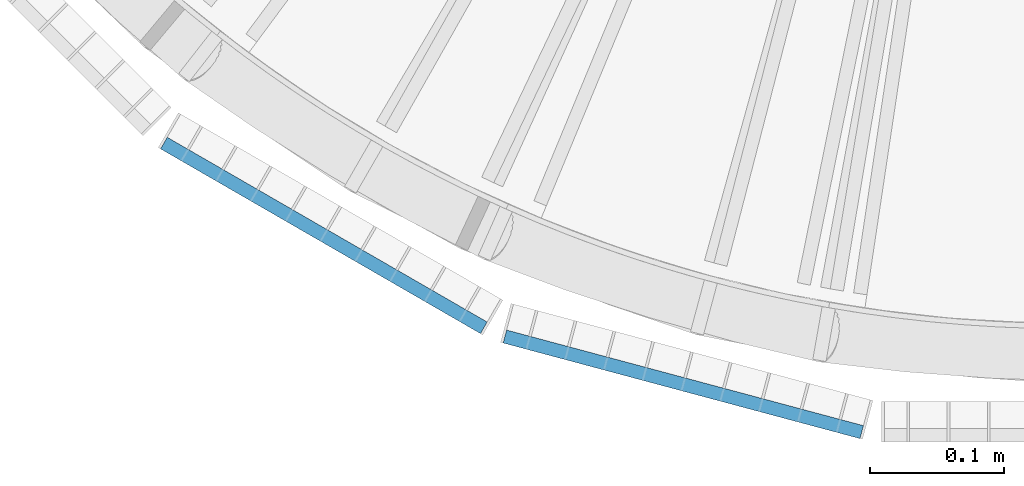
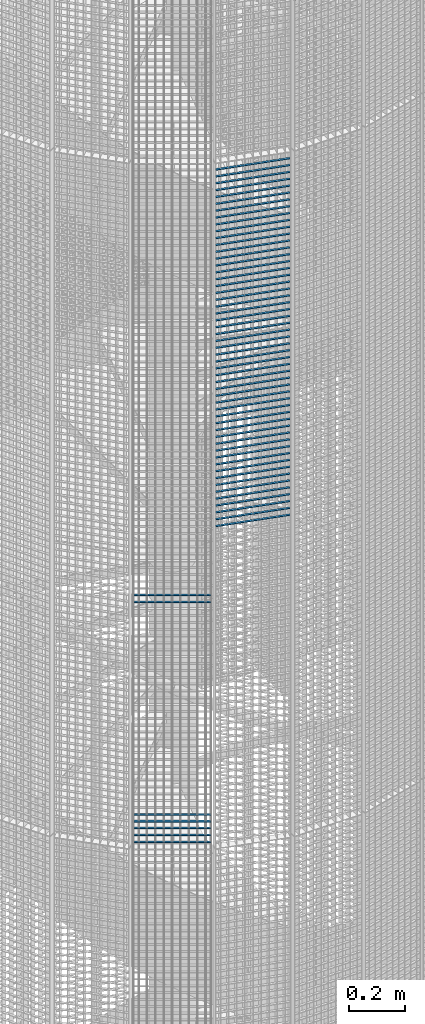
# One storey, part 355 of 1148: 60 beams, 2 elements without a shape of their own.
"""IFC2X3 building model written with IfcOpenShell, lengths in millimetres."""

from ifc_helpers import new_model, si_unit, frame, origin_with_axes, origin_2d_with_axis, place, context, subcontext, project, spatial, rectangle, extrude, material, type_object, element, aggregate, save


model = new_model("IFC2X3")

# Units and contexts
model_context = context("Model", 3, precision=1e-05, world=origin_with_axes())
body_context = subcontext(model_context, "Body", "Model", "MODEL_VIEW")
ifc_project = project(units=[si_unit("LENGTHUNIT", "METRE", prefix="MILLI"), si_unit("AREAUNIT", "SQUARE_METRE"), si_unit("VOLUMEUNIT", "CUBIC_METRE"), si_unit("MASSUNIT", "GRAM", prefix="KILO"), si_unit("TIMEUNIT", "SECOND"), si_unit("PLANEANGLEUNIT", "RADIAN"), si_unit("SOLIDANGLEUNIT", "STERADIAN"), si_unit("THERMODYNAMICTEMPERATUREUNIT", "DEGREE_CELSIUS"), si_unit("LUMINOUSINTENSITYUNIT", "LUMEN")], contexts=[model_context])

# Site, building, storey
site_placement = place(None, origin_with_axes())
site = spatial("IfcSite", under=ifc_project, at=site_placement, Name="Undefined", CompositionType="ELEMENT")
building_placement = place(site_placement, origin_with_axes())
building = spatial("IfcBuilding", under=site, at=building_placement, Name="Undefined", CompositionType="ELEMENT")
storey_placement = place(building_placement, origin_with_axes())
storey = spatial("IfcBuildingStorey", under=building, at=storey_placement, Name="Undefined", CompositionType="ELEMENT", Elevation=0.0)

# Assembly, beams
assembly_1_placement = place(storey_placement, origin_with_axes())
assembly_1 = element("IfcElementAssembly", 1, at=assembly_1_placement, inside=storey, Name="BORDURE", AssemblyPlace="NOTDEFINED", PredefinedType="NOTDEFINED")
ifc_material = material(Name="STEEL/S235JR")
beam_type = type_object("IfcBeamType", Name="PL2*10", PredefinedType="NOTDEFINED")
beam_1_placement = place(assembly_1_placement, frame((21162.7680445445, -1033.29996828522, 6150.0), z_axis=(-0.49999999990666, -0.866025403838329, 0.0), x_axis=(-0.866025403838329, 0.499999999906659, 0.0)))
beam_1 = element("IfcBeam", 2, at=beam_1_placement, type_object=beam_type, material=ifc_material, Name="ENTRETOISE", context=body_context, shape_type="SweptSolid", body=[
    extrude(rectangle(XDim=2.0, YDim=10.0, at=origin_2d_with_axis()), frame((275.999999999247, 9.09494701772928e-13, 1.53210777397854e-14), z_axis=(-1.0, 0.0, 0.0), x_axis=(0.0, -1.0, 0.0)), (0.0, 0.0, 1.0), 276.0),
])
beam_2_placement = place(assembly_1_placement, frame((21162.7680445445, -1033.29996828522, 6120.0), z_axis=(-0.49999999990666, -0.866025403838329, 0.0), x_axis=(-0.866025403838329, 0.499999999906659, 0.0)))
beam_2 = element("IfcBeam", 3, at=beam_2_placement, type_object=beam_type, material=ifc_material, Name="ENTRETOISE", context=body_context, shape_type="SweptSolid", body=[
    extrude(rectangle(XDim=2.0, YDim=10.0, at=origin_2d_with_axis()), frame((275.999999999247, 9.09494701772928e-13, 1.53210777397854e-14), z_axis=(-1.0, 0.0, 0.0), x_axis=(0.0, -1.0, 0.0)), (0.0, 0.0, 1.0), 276.0),
])
beam_3_placement = place(assembly_1_placement, frame((21162.7680445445, -1033.29996828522, 7080.0), z_axis=(-0.49999999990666, -0.866025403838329, 0.0), x_axis=(-0.866025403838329, 0.499999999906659, 0.0)))
beam_3 = element("IfcBeam", 4, at=beam_3_placement, type_object=beam_type, material=ifc_material, Name="ENTRETOISE", context=body_context, shape_type="SweptSolid", body=[
    extrude(rectangle(XDim=2.0, YDim=10.0, at=origin_2d_with_axis()), frame((275.999999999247, 9.09494701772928e-13, 1.53210777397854e-14), z_axis=(-1.0, 0.0, 0.0), x_axis=(0.0, -1.0, 0.0)), (0.0, 0.0, 1.0), 276.0),
])
beam_4_placement = place(assembly_1_placement, frame((21162.7680445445, -1033.29996828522, 6090.0), z_axis=(-0.49999999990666, -0.866025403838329, 0.0), x_axis=(-0.866025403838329, 0.499999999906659, 0.0)))
beam_4 = element("IfcBeam", 5, at=beam_4_placement, type_object=beam_type, material=ifc_material, Name="ENTRETOISE", context=body_context, shape_type="SweptSolid", body=[
    extrude(rectangle(XDim=2.0, YDim=10.0, at=origin_2d_with_axis()), frame((275.999999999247, 9.09494701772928e-13, 1.53210777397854e-14), z_axis=(-1.0, 0.0, 0.0), x_axis=(0.0, -1.0, 0.0)), (0.0, 0.0, 1.0), 276.0),
])
beam_5_placement = place(assembly_1_placement, frame((21162.7680445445, -1033.29996828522, 6060.0), z_axis=(-0.49999999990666, -0.866025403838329, 0.0), x_axis=(-0.866025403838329, 0.499999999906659, 0.0)))
beam_5 = element("IfcBeam", 6, at=beam_5_placement, type_object=beam_type, material=ifc_material, Name="ENTRETOISE", context=body_context, shape_type="SweptSolid", body=[
    extrude(rectangle(XDim=2.0, YDim=10.0, at=origin_2d_with_axis()), frame((275.999999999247, 9.09494701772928e-13, 1.53210777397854e-14), z_axis=(-1.0, 0.0, 0.0), x_axis=(0.0, -1.0, 0.0)), (0.0, 0.0, 1.0), 276.0),
])
beam_6_placement = place(assembly_1_placement, frame((21162.7680445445, -1033.29996828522, 7110.0), z_axis=(-0.49999999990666, -0.866025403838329, 0.0), x_axis=(-0.866025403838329, 0.499999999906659, 0.0)))
beam_6 = element("IfcBeam", 7, at=beam_6_placement, type_object=beam_type, material=ifc_material, Name="ENTRETOISE", context=body_context, shape_type="SweptSolid", body=[
    extrude(rectangle(XDim=2.0, YDim=10.0, at=origin_2d_with_axis()), frame((275.999999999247, 9.09494701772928e-13, 1.53210777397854e-14), z_axis=(-1.0, 0.0, 0.0), x_axis=(0.0, -1.0, 0.0)), (0.0, 0.0, 1.0), 276.0),
])
beam_7_placement = place(assembly_1_placement, frame((21162.7680445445, -1033.29996828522, 6030.0), z_axis=(-0.49999999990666, -0.866025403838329, 0.0), x_axis=(-0.866025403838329, 0.499999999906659, 0.0)))
beam_7 = element("IfcBeam", 8, at=beam_7_placement, type_object=beam_type, material=ifc_material, Name="ENTRETOISE", context=body_context, shape_type="SweptSolid", body=[
    extrude(rectangle(XDim=2.0, YDim=10.0, at=origin_2d_with_axis()), frame((275.999999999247, 9.09494701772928e-13, 1.53210777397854e-14), z_axis=(-1.0, 0.0, 0.0), x_axis=(0.0, -1.0, 0.0)), (0.0, 0.0, 1.0), 276.0),
])
aggregate(assembly_1, [beam_1, beam_2, beam_3, beam_4, beam_5, beam_6, beam_7])

assembly_2_placement = place(storey_placement, origin_with_axes())
assembly_2 = element("IfcElementAssembly", 9, at=assembly_2_placement, inside=storey, Name="BORDURE", AssemblyPlace="NOTDEFINED", PredefinedType="NOTDEFINED")
beam_8_placement = place(assembly_2_placement, frame((21445.1040732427, -1111.25508286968, 8970.0), z_axis=(-0.258819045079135, -0.965925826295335, 0.0), x_axis=(-0.965925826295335, 0.258819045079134, 0.0)))
beam_8 = element("IfcBeam", 10, at=beam_8_placement, type_object=beam_type, material=ifc_material, Name="ENTRETOISE", context=body_context, shape_type="SweptSolid", body=[
    extrude(rectangle(XDim=2.0, YDim=10.0, at=origin_2d_with_axis()), frame((275.999999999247, 9.09494701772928e-13, 1.53210777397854e-14), z_axis=(-1.0, 0.0, 0.0), x_axis=(0.0, -1.0, 0.0)), (0.0, 0.0, 1.0), 276.0),
])
beam_9_placement = place(assembly_2_placement, frame((21445.1040732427, -1111.25508286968, 8940.0), z_axis=(-0.258819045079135, -0.965925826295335, 0.0), x_axis=(-0.965925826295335, 0.258819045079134, 0.0)))
beam_9 = element("IfcBeam", 11, at=beam_9_placement, type_object=beam_type, material=ifc_material, Name="ENTRETOISE", context=body_context, shape_type="SweptSolid", body=[
    extrude(rectangle(XDim=2.0, YDim=10.0, at=origin_2d_with_axis()), frame((275.999999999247, 9.09494701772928e-13, 1.53210777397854e-14), z_axis=(-1.0, 0.0, 0.0), x_axis=(0.0, -1.0, 0.0)), (0.0, 0.0, 1.0), 276.0),
])
beam_10_placement = place(assembly_2_placement, frame((21445.1040732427, -1111.25508286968, 8910.0), z_axis=(-0.258819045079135, -0.965925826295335, 0.0), x_axis=(-0.965925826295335, 0.258819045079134, 0.0)))
beam_10 = element("IfcBeam", 12, at=beam_10_placement, type_object=beam_type, material=ifc_material, Name="ENTRETOISE", context=body_context, shape_type="SweptSolid", body=[
    extrude(rectangle(XDim=2.0, YDim=10.0, at=origin_2d_with_axis()), frame((275.999999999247, 9.09494701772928e-13, 1.53210777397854e-14), z_axis=(-1.0, 0.0, 0.0), x_axis=(0.0, -1.0, 0.0)), (0.0, 0.0, 1.0), 276.0),
])
beam_11_placement = place(assembly_2_placement, frame((21445.1040732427, -1111.25508286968, 8880.0), z_axis=(-0.258819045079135, -0.965925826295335, 0.0), x_axis=(-0.965925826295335, 0.258819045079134, 0.0)))
beam_11 = element("IfcBeam", 13, at=beam_11_placement, type_object=beam_type, material=ifc_material, Name="ENTRETOISE", context=body_context, shape_type="SweptSolid", body=[
    extrude(rectangle(XDim=2.0, YDim=10.0, at=origin_2d_with_axis()), frame((275.999999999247, 9.09494701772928e-13, 1.53210777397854e-14), z_axis=(-1.0, 0.0, 0.0), x_axis=(0.0, -1.0, 0.0)), (0.0, 0.0, 1.0), 276.0),
])
beam_12_placement = place(assembly_2_placement, frame((21445.1040732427, -1111.25508286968, 8850.0), z_axis=(-0.258819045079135, -0.965925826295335, 0.0), x_axis=(-0.965925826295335, 0.258819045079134, 0.0)))
beam_12 = element("IfcBeam", 14, at=beam_12_placement, type_object=beam_type, material=ifc_material, Name="ENTRETOISE", context=body_context, shape_type="SweptSolid", body=[
    extrude(rectangle(XDim=2.0, YDim=10.0, at=origin_2d_with_axis()), frame((275.999999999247, 9.09494701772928e-13, 1.53210777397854e-14), z_axis=(-1.0, 0.0, 0.0), x_axis=(0.0, -1.0, 0.0)), (0.0, 0.0, 1.0), 276.0),
])
beam_13_placement = place(assembly_2_placement, frame((21445.1040732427, -1111.25508286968, 8820.0), z_axis=(-0.258819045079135, -0.965925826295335, 0.0), x_axis=(-0.965925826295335, 0.258819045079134, 0.0)))
beam_13 = element("IfcBeam", 15, at=beam_13_placement, type_object=beam_type, material=ifc_material, Name="ENTRETOISE", context=body_context, shape_type="SweptSolid", body=[
    extrude(rectangle(XDim=2.0, YDim=10.0, at=origin_2d_with_axis()), frame((275.999999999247, 9.09494701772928e-13, 1.53210777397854e-14), z_axis=(-1.0, 0.0, 0.0), x_axis=(0.0, -1.0, 0.0)), (0.0, 0.0, 1.0), 276.0),
])
beam_14_placement = place(assembly_2_placement, frame((21445.1040732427, -1111.25508286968, 8790.0), z_axis=(-0.258819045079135, -0.965925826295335, 0.0), x_axis=(-0.965925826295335, 0.258819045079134, 0.0)))
beam_14 = element("IfcBeam", 16, at=beam_14_placement, type_object=beam_type, material=ifc_material, Name="ENTRETOISE", context=body_context, shape_type="SweptSolid", body=[
    extrude(rectangle(XDim=2.0, YDim=10.0, at=origin_2d_with_axis()), frame((275.999999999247, 9.09494701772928e-13, 1.53210777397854e-14), z_axis=(-1.0, 0.0, 0.0), x_axis=(0.0, -1.0, 0.0)), (0.0, 0.0, 1.0), 276.0),
])
beam_15_placement = place(assembly_2_placement, frame((21445.1040732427, -1111.25508286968, 8760.0), z_axis=(-0.258819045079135, -0.965925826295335, 0.0), x_axis=(-0.965925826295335, 0.258819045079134, 0.0)))
beam_15 = element("IfcBeam", 17, at=beam_15_placement, type_object=beam_type, material=ifc_material, Name="ENTRETOISE", context=body_context, shape_type="SweptSolid", body=[
    extrude(rectangle(XDim=2.0, YDim=10.0, at=origin_2d_with_axis()), frame((275.999999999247, 9.09494701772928e-13, 1.53210777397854e-14), z_axis=(-1.0, 0.0, 0.0), x_axis=(0.0, -1.0, 0.0)), (0.0, 0.0, 1.0), 276.0),
])
beam_16_placement = place(assembly_2_placement, frame((21445.1040732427, -1111.25508286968, 8730.0), z_axis=(-0.258819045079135, -0.965925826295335, 0.0), x_axis=(-0.965925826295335, 0.258819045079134, 0.0)))
beam_16 = element("IfcBeam", 18, at=beam_16_placement, type_object=beam_type, material=ifc_material, Name="ENTRETOISE", context=body_context, shape_type="SweptSolid", body=[
    extrude(rectangle(XDim=2.0, YDim=10.0, at=origin_2d_with_axis()), frame((275.999999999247, 9.09494701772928e-13, 1.53210777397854e-14), z_axis=(-1.0, 0.0, 0.0), x_axis=(0.0, -1.0, 0.0)), (0.0, 0.0, 1.0), 276.0),
])
beam_17_placement = place(assembly_2_placement, frame((21445.1040732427, -1111.25508286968, 8700.0), z_axis=(-0.258819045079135, -0.965925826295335, 0.0), x_axis=(-0.965925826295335, 0.258819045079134, 0.0)))
beam_17 = element("IfcBeam", 19, at=beam_17_placement, type_object=beam_type, material=ifc_material, Name="ENTRETOISE", context=body_context, shape_type="SweptSolid", body=[
    extrude(rectangle(XDim=2.0, YDim=10.0, at=origin_2d_with_axis()), frame((275.999999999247, 9.09494701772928e-13, 1.53210777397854e-14), z_axis=(-1.0, 0.0, 0.0), x_axis=(0.0, -1.0, 0.0)), (0.0, 0.0, 1.0), 276.0),
])
beam_18_placement = place(assembly_2_placement, frame((21445.1040732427, -1111.25508286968, 8670.0), z_axis=(-0.258819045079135, -0.965925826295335, 0.0), x_axis=(-0.965925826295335, 0.258819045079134, 0.0)))
beam_18 = element("IfcBeam", 20, at=beam_18_placement, type_object=beam_type, material=ifc_material, Name="ENTRETOISE", context=body_context, shape_type="SweptSolid", body=[
    extrude(rectangle(XDim=2.0, YDim=10.0, at=origin_2d_with_axis()), frame((275.999999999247, 9.09494701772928e-13, 1.53210777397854e-14), z_axis=(-1.0, 0.0, 0.0), x_axis=(0.0, -1.0, 0.0)), (0.0, 0.0, 1.0), 276.0),
])
beam_19_placement = place(assembly_2_placement, frame((21445.1040732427, -1111.25508286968, 8640.0), z_axis=(-0.258819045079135, -0.965925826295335, 0.0), x_axis=(-0.965925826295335, 0.258819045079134, 0.0)))
beam_19 = element("IfcBeam", 21, at=beam_19_placement, type_object=beam_type, material=ifc_material, Name="ENTRETOISE", context=body_context, shape_type="SweptSolid", body=[
    extrude(rectangle(XDim=2.0, YDim=10.0, at=origin_2d_with_axis()), frame((275.999999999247, 9.09494701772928e-13, 1.53210777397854e-14), z_axis=(-1.0, 0.0, 0.0), x_axis=(0.0, -1.0, 0.0)), (0.0, 0.0, 1.0), 276.0),
])
beam_20_placement = place(assembly_2_placement, frame((21445.1040732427, -1111.25508286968, 8610.0), z_axis=(-0.258819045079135, -0.965925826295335, 0.0), x_axis=(-0.965925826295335, 0.258819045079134, 0.0)))
beam_20 = element("IfcBeam", 22, at=beam_20_placement, type_object=beam_type, material=ifc_material, Name="ENTRETOISE", context=body_context, shape_type="SweptSolid", body=[
    extrude(rectangle(XDim=2.0, YDim=10.0, at=origin_2d_with_axis()), frame((275.999999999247, 9.09494701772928e-13, 1.53210777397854e-14), z_axis=(-1.0, 0.0, 0.0), x_axis=(0.0, -1.0, 0.0)), (0.0, 0.0, 1.0), 276.0),
])
beam_21_placement = place(assembly_2_placement, frame((21445.1040732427, -1111.25508286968, 8580.0), z_axis=(-0.258819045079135, -0.965925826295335, 0.0), x_axis=(-0.965925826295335, 0.258819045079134, 0.0)))
beam_21 = element("IfcBeam", 23, at=beam_21_placement, type_object=beam_type, material=ifc_material, Name="ENTRETOISE", context=body_context, shape_type="SweptSolid", body=[
    extrude(rectangle(XDim=2.0, YDim=10.0, at=origin_2d_with_axis()), frame((275.999999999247, 9.09494701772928e-13, 1.53210777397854e-14), z_axis=(-1.0, 0.0, 0.0), x_axis=(0.0, -1.0, 0.0)), (0.0, 0.0, 1.0), 276.0),
])
beam_22_placement = place(assembly_2_placement, frame((21445.1040732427, -1111.25508286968, 8550.0), z_axis=(-0.258819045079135, -0.965925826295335, 0.0), x_axis=(-0.965925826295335, 0.258819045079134, 0.0)))
beam_22 = element("IfcBeam", 24, at=beam_22_placement, type_object=beam_type, material=ifc_material, Name="ENTRETOISE", context=body_context, shape_type="SweptSolid", body=[
    extrude(rectangle(XDim=2.0, YDim=10.0, at=origin_2d_with_axis()), frame((275.999999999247, 9.09494701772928e-13, 1.53210777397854e-14), z_axis=(-1.0, 0.0, 0.0), x_axis=(0.0, -1.0, 0.0)), (0.0, 0.0, 1.0), 276.0),
])
beam_23_placement = place(assembly_2_placement, frame((21445.1040732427, -1111.25508286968, 8520.0), z_axis=(-0.258819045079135, -0.965925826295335, 0.0), x_axis=(-0.965925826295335, 0.258819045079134, 0.0)))
beam_23 = element("IfcBeam", 25, at=beam_23_placement, type_object=beam_type, material=ifc_material, Name="ENTRETOISE", context=body_context, shape_type="SweptSolid", body=[
    extrude(rectangle(XDim=2.0, YDim=10.0, at=origin_2d_with_axis()), frame((275.999999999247, 9.09494701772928e-13, 1.53210777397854e-14), z_axis=(-1.0, 0.0, 0.0), x_axis=(0.0, -1.0, 0.0)), (0.0, 0.0, 1.0), 276.0),
])
beam_24_placement = place(assembly_2_placement, frame((21445.1040732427, -1111.25508286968, 8490.0), z_axis=(-0.258819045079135, -0.965925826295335, 0.0), x_axis=(-0.965925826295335, 0.258819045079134, 0.0)))
beam_24 = element("IfcBeam", 26, at=beam_24_placement, type_object=beam_type, material=ifc_material, Name="ENTRETOISE", context=body_context, shape_type="SweptSolid", body=[
    extrude(rectangle(XDim=2.0, YDim=10.0, at=origin_2d_with_axis()), frame((275.999999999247, 9.09494701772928e-13, 1.53210777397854e-14), z_axis=(-1.0, 0.0, 0.0), x_axis=(0.0, -1.0, 0.0)), (0.0, 0.0, 1.0), 276.0),
])
beam_25_placement = place(assembly_2_placement, frame((21445.1040732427, -1111.25508286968, 8460.0), z_axis=(-0.258819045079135, -0.965925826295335, 0.0), x_axis=(-0.965925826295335, 0.258819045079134, 0.0)))
beam_25 = element("IfcBeam", 27, at=beam_25_placement, type_object=beam_type, material=ifc_material, Name="ENTRETOISE", context=body_context, shape_type="SweptSolid", body=[
    extrude(rectangle(XDim=2.0, YDim=10.0, at=origin_2d_with_axis()), frame((275.999999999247, 9.09494701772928e-13, 1.53210777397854e-14), z_axis=(-1.0, 0.0, 0.0), x_axis=(0.0, -1.0, 0.0)), (0.0, 0.0, 1.0), 276.0),
])
beam_26_placement = place(assembly_2_placement, frame((21445.1040732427, -1111.25508286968, 8430.0), z_axis=(-0.258819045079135, -0.965925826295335, 0.0), x_axis=(-0.965925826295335, 0.258819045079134, 0.0)))
beam_26 = element("IfcBeam", 28, at=beam_26_placement, type_object=beam_type, material=ifc_material, Name="ENTRETOISE", context=body_context, shape_type="SweptSolid", body=[
    extrude(rectangle(XDim=2.0, YDim=10.0, at=origin_2d_with_axis()), frame((275.999999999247, 9.09494701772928e-13, 1.53210777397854e-14), z_axis=(-1.0, 0.0, 0.0), x_axis=(0.0, -1.0, 0.0)), (0.0, 0.0, 1.0), 276.0),
])
beam_27_placement = place(assembly_2_placement, frame((21445.1040732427, -1111.25508286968, 8400.0), z_axis=(-0.258819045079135, -0.965925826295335, 0.0), x_axis=(-0.965925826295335, 0.258819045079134, 0.0)))
beam_27 = element("IfcBeam", 29, at=beam_27_placement, type_object=beam_type, material=ifc_material, Name="ENTRETOISE", context=body_context, shape_type="SweptSolid", body=[
    extrude(rectangle(XDim=2.0, YDim=10.0, at=origin_2d_with_axis()), frame((275.999999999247, 9.09494701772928e-13, 1.53210777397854e-14), z_axis=(-1.0, 0.0, 0.0), x_axis=(0.0, -1.0, 0.0)), (0.0, 0.0, 1.0), 276.0),
])
beam_28_placement = place(assembly_2_placement, frame((21445.1040732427, -1111.25508286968, 8370.0), z_axis=(-0.258819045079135, -0.965925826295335, 0.0), x_axis=(-0.965925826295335, 0.258819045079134, 0.0)))
beam_28 = element("IfcBeam", 30, at=beam_28_placement, type_object=beam_type, material=ifc_material, Name="ENTRETOISE", context=body_context, shape_type="SweptSolid", body=[
    extrude(rectangle(XDim=2.0, YDim=10.0, at=origin_2d_with_axis()), frame((275.999999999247, 9.09494701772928e-13, 1.53210777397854e-14), z_axis=(-1.0, 0.0, 0.0), x_axis=(0.0, -1.0, 0.0)), (0.0, 0.0, 1.0), 276.0),
])
beam_29_placement = place(assembly_2_placement, frame((21445.1040732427, -1111.25508286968, 8340.0), z_axis=(-0.258819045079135, -0.965925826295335, 0.0), x_axis=(-0.965925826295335, 0.258819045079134, 0.0)))
beam_29 = element("IfcBeam", 31, at=beam_29_placement, type_object=beam_type, material=ifc_material, Name="ENTRETOISE", context=body_context, shape_type="SweptSolid", body=[
    extrude(rectangle(XDim=2.0, YDim=10.0, at=origin_2d_with_axis()), frame((275.999999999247, 9.09494701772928e-13, 1.53210777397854e-14), z_axis=(-1.0, 0.0, 0.0), x_axis=(0.0, -1.0, 0.0)), (0.0, 0.0, 1.0), 276.0),
])
beam_30_placement = place(assembly_2_placement, frame((21445.1040732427, -1111.25508286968, 8310.0), z_axis=(-0.258819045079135, -0.965925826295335, 0.0), x_axis=(-0.965925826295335, 0.258819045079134, 0.0)))
beam_30 = element("IfcBeam", 32, at=beam_30_placement, type_object=beam_type, material=ifc_material, Name="ENTRETOISE", context=body_context, shape_type="SweptSolid", body=[
    extrude(rectangle(XDim=2.0, YDim=10.0, at=origin_2d_with_axis()), frame((275.999999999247, 9.09494701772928e-13, 1.53210777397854e-14), z_axis=(-1.0, 0.0, 0.0), x_axis=(0.0, -1.0, 0.0)), (0.0, 0.0, 1.0), 276.0),
])
beam_31_placement = place(assembly_2_placement, frame((21445.1040732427, -1111.25508286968, 8280.0), z_axis=(-0.258819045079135, -0.965925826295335, 0.0), x_axis=(-0.965925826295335, 0.258819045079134, 0.0)))
beam_31 = element("IfcBeam", 33, at=beam_31_placement, type_object=beam_type, material=ifc_material, Name="ENTRETOISE", context=body_context, shape_type="SweptSolid", body=[
    extrude(rectangle(XDim=2.0, YDim=10.0, at=origin_2d_with_axis()), frame((275.999999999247, 9.09494701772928e-13, 1.53210777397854e-14), z_axis=(-1.0, 0.0, 0.0), x_axis=(0.0, -1.0, 0.0)), (0.0, 0.0, 1.0), 276.0),
])
beam_32_placement = place(assembly_2_placement, frame((21445.1040732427, -1111.25508286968, 8250.0), z_axis=(-0.258819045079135, -0.965925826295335, 0.0), x_axis=(-0.965925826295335, 0.258819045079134, 0.0)))
beam_32 = element("IfcBeam", 34, at=beam_32_placement, type_object=beam_type, material=ifc_material, Name="ENTRETOISE", context=body_context, shape_type="SweptSolid", body=[
    extrude(rectangle(XDim=2.0, YDim=10.0, at=origin_2d_with_axis()), frame((275.999999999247, 9.09494701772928e-13, 1.53210777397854e-14), z_axis=(-1.0, 0.0, 0.0), x_axis=(0.0, -1.0, 0.0)), (0.0, 0.0, 1.0), 276.0),
])
beam_33_placement = place(assembly_2_placement, frame((21445.1040732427, -1111.25508286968, 8220.0), z_axis=(-0.258819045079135, -0.965925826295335, 0.0), x_axis=(-0.965925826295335, 0.258819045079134, 0.0)))
beam_33 = element("IfcBeam", 35, at=beam_33_placement, type_object=beam_type, material=ifc_material, Name="ENTRETOISE", context=body_context, shape_type="SweptSolid", body=[
    extrude(rectangle(XDim=2.0, YDim=10.0, at=origin_2d_with_axis()), frame((275.999999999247, 9.09494701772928e-13, 1.53210777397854e-14), z_axis=(-1.0, 0.0, 0.0), x_axis=(0.0, -1.0, 0.0)), (0.0, 0.0, 1.0), 276.0),
])
beam_34_placement = place(assembly_2_placement, frame((21445.1040732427, -1111.25508286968, 8190.0), z_axis=(-0.258819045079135, -0.965925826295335, 0.0), x_axis=(-0.965925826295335, 0.258819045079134, 0.0)))
beam_34 = element("IfcBeam", 36, at=beam_34_placement, type_object=beam_type, material=ifc_material, Name="ENTRETOISE", context=body_context, shape_type="SweptSolid", body=[
    extrude(rectangle(XDim=2.0, YDim=10.0, at=origin_2d_with_axis()), frame((275.999999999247, 9.09494701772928e-13, 1.53210777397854e-14), z_axis=(-1.0, 0.0, 0.0), x_axis=(0.0, -1.0, 0.0)), (0.0, 0.0, 1.0), 276.0),
])
beam_35_placement = place(assembly_2_placement, frame((21445.1040732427, -1111.25508286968, 8160.0), z_axis=(-0.258819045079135, -0.965925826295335, 0.0), x_axis=(-0.965925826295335, 0.258819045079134, 0.0)))
beam_35 = element("IfcBeam", 37, at=beam_35_placement, type_object=beam_type, material=ifc_material, Name="ENTRETOISE", context=body_context, shape_type="SweptSolid", body=[
    extrude(rectangle(XDim=2.0, YDim=10.0, at=origin_2d_with_axis()), frame((275.999999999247, 9.09494701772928e-13, 1.53210777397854e-14), z_axis=(-1.0, 0.0, 0.0), x_axis=(0.0, -1.0, 0.0)), (0.0, 0.0, 1.0), 276.0),
])
beam_36_placement = place(assembly_2_placement, frame((21445.1040732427, -1111.25508286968, 8130.0), z_axis=(-0.258819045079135, -0.965925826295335, 0.0), x_axis=(-0.965925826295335, 0.258819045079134, 0.0)))
beam_36 = element("IfcBeam", 38, at=beam_36_placement, type_object=beam_type, material=ifc_material, Name="ENTRETOISE", context=body_context, shape_type="SweptSolid", body=[
    extrude(rectangle(XDim=2.0, YDim=10.0, at=origin_2d_with_axis()), frame((275.999999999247, 9.09494701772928e-13, 1.53210777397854e-14), z_axis=(-1.0, 0.0, 0.0), x_axis=(0.0, -1.0, 0.0)), (0.0, 0.0, 1.0), 276.0),
])
beam_37_placement = place(assembly_2_placement, frame((21445.1040732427, -1111.25508286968, 8100.0), z_axis=(-0.258819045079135, -0.965925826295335, 0.0), x_axis=(-0.965925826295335, 0.258819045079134, 0.0)))
beam_37 = element("IfcBeam", 39, at=beam_37_placement, type_object=beam_type, material=ifc_material, Name="ENTRETOISE", context=body_context, shape_type="SweptSolid", body=[
    extrude(rectangle(XDim=2.0, YDim=10.0, at=origin_2d_with_axis()), frame((275.999999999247, 9.09494701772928e-13, 1.53210777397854e-14), z_axis=(-1.0, 0.0, 0.0), x_axis=(0.0, -1.0, 0.0)), (0.0, 0.0, 1.0), 276.0),
])
beam_38_placement = place(assembly_2_placement, frame((21445.1040732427, -1111.25508286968, 8070.0), z_axis=(-0.258819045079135, -0.965925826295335, 0.0), x_axis=(-0.965925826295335, 0.258819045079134, 0.0)))
beam_38 = element("IfcBeam", 40, at=beam_38_placement, type_object=beam_type, material=ifc_material, Name="ENTRETOISE", context=body_context, shape_type="SweptSolid", body=[
    extrude(rectangle(XDim=2.0, YDim=10.0, at=origin_2d_with_axis()), frame((275.999999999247, 9.09494701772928e-13, 1.53210777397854e-14), z_axis=(-1.0, 0.0, 0.0), x_axis=(0.0, -1.0, 0.0)), (0.0, 0.0, 1.0), 276.0),
])
beam_39_placement = place(assembly_2_placement, frame((21445.1040732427, -1111.25508286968, 8040.0), z_axis=(-0.258819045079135, -0.965925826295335, 0.0), x_axis=(-0.965925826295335, 0.258819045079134, 0.0)))
beam_39 = element("IfcBeam", 41, at=beam_39_placement, type_object=beam_type, material=ifc_material, Name="ENTRETOISE", context=body_context, shape_type="SweptSolid", body=[
    extrude(rectangle(XDim=2.0, YDim=10.0, at=origin_2d_with_axis()), frame((275.999999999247, 9.09494701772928e-13, 1.53210777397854e-14), z_axis=(-1.0, 0.0, 0.0), x_axis=(0.0, -1.0, 0.0)), (0.0, 0.0, 1.0), 276.0),
])
beam_40_placement = place(assembly_2_placement, frame((21445.1040732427, -1111.25508286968, 8010.0), z_axis=(-0.258819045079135, -0.965925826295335, 0.0), x_axis=(-0.965925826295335, 0.258819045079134, 0.0)))
beam_40 = element("IfcBeam", 42, at=beam_40_placement, type_object=beam_type, material=ifc_material, Name="ENTRETOISE", context=body_context, shape_type="SweptSolid", body=[
    extrude(rectangle(XDim=2.0, YDim=10.0, at=origin_2d_with_axis()), frame((275.999999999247, 9.09494701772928e-13, 1.53210777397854e-14), z_axis=(-1.0, 0.0, 0.0), x_axis=(0.0, -1.0, 0.0)), (0.0, 0.0, 1.0), 276.0),
])
beam_41_placement = place(assembly_2_placement, frame((21445.1040732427, -1111.25508286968, 7980.0), z_axis=(-0.258819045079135, -0.965925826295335, 0.0), x_axis=(-0.965925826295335, 0.258819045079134, 0.0)))
beam_41 = element("IfcBeam", 43, at=beam_41_placement, type_object=beam_type, material=ifc_material, Name="ENTRETOISE", context=body_context, shape_type="SweptSolid", body=[
    extrude(rectangle(XDim=2.0, YDim=10.0, at=origin_2d_with_axis()), frame((275.999999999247, 9.09494701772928e-13, 1.53210777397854e-14), z_axis=(-1.0, 0.0, 0.0), x_axis=(0.0, -1.0, 0.0)), (0.0, 0.0, 1.0), 276.0),
])
beam_42_placement = place(assembly_2_placement, frame((21445.1040732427, -1111.25508286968, 7950.0), z_axis=(-0.258819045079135, -0.965925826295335, 0.0), x_axis=(-0.965925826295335, 0.258819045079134, 0.0)))
beam_42 = element("IfcBeam", 44, at=beam_42_placement, type_object=beam_type, material=ifc_material, Name="ENTRETOISE", context=body_context, shape_type="SweptSolid", body=[
    extrude(rectangle(XDim=2.0, YDim=10.0, at=origin_2d_with_axis()), frame((275.999999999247, 9.09494701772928e-13, 1.53210777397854e-14), z_axis=(-1.0, 0.0, 0.0), x_axis=(0.0, -1.0, 0.0)), (0.0, 0.0, 1.0), 276.0),
])
beam_43_placement = place(assembly_2_placement, frame((21445.1040732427, -1111.25508286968, 7920.0), z_axis=(-0.258819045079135, -0.965925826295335, 0.0), x_axis=(-0.965925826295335, 0.258819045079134, 0.0)))
beam_43 = element("IfcBeam", 45, at=beam_43_placement, type_object=beam_type, material=ifc_material, Name="ENTRETOISE", context=body_context, shape_type="SweptSolid", body=[
    extrude(rectangle(XDim=2.0, YDim=10.0, at=origin_2d_with_axis()), frame((275.999999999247, 9.09494701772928e-13, 1.53210777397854e-14), z_axis=(-1.0, 0.0, 0.0), x_axis=(0.0, -1.0, 0.0)), (0.0, 0.0, 1.0), 276.0),
])
beam_44_placement = place(assembly_2_placement, frame((21445.1040732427, -1111.25508286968, 7890.0), z_axis=(-0.258819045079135, -0.965925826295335, 0.0), x_axis=(-0.965925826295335, 0.258819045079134, 0.0)))
beam_44 = element("IfcBeam", 46, at=beam_44_placement, type_object=beam_type, material=ifc_material, Name="ENTRETOISE", context=body_context, shape_type="SweptSolid", body=[
    extrude(rectangle(XDim=2.0, YDim=10.0, at=origin_2d_with_axis()), frame((275.999999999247, 9.09494701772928e-13, 1.53210777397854e-14), z_axis=(-1.0, 0.0, 0.0), x_axis=(0.0, -1.0, 0.0)), (0.0, 0.0, 1.0), 276.0),
])
beam_45_placement = place(assembly_2_placement, frame((21445.1040732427, -1111.25508286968, 7860.0), z_axis=(-0.258819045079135, -0.965925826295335, 0.0), x_axis=(-0.965925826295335, 0.258819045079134, 0.0)))
beam_45 = element("IfcBeam", 47, at=beam_45_placement, type_object=beam_type, material=ifc_material, Name="ENTRETOISE", context=body_context, shape_type="SweptSolid", body=[
    extrude(rectangle(XDim=2.0, YDim=10.0, at=origin_2d_with_axis()), frame((275.999999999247, 9.09494701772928e-13, 1.53210777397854e-14), z_axis=(-1.0, 0.0, 0.0), x_axis=(0.0, -1.0, 0.0)), (0.0, 0.0, 1.0), 276.0),
])
beam_46_placement = place(assembly_2_placement, frame((21445.1040732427, -1111.25508286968, 7830.0), z_axis=(-0.258819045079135, -0.965925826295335, 0.0), x_axis=(-0.965925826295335, 0.258819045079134, 0.0)))
beam_46 = element("IfcBeam", 48, at=beam_46_placement, type_object=beam_type, material=ifc_material, Name="ENTRETOISE", context=body_context, shape_type="SweptSolid", body=[
    extrude(rectangle(XDim=2.0, YDim=10.0, at=origin_2d_with_axis()), frame((275.999999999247, 9.09494701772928e-13, 1.53210777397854e-14), z_axis=(-1.0, 0.0, 0.0), x_axis=(0.0, -1.0, 0.0)), (0.0, 0.0, 1.0), 276.0),
])
beam_47_placement = place(assembly_2_placement, frame((21445.1040732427, -1111.25508286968, 7800.0), z_axis=(-0.258819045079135, -0.965925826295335, 0.0), x_axis=(-0.965925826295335, 0.258819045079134, 0.0)))
beam_47 = element("IfcBeam", 49, at=beam_47_placement, type_object=beam_type, material=ifc_material, Name="ENTRETOISE", context=body_context, shape_type="SweptSolid", body=[
    extrude(rectangle(XDim=2.0, YDim=10.0, at=origin_2d_with_axis()), frame((275.999999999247, 9.09494701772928e-13, 1.53210777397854e-14), z_axis=(-1.0, 0.0, 0.0), x_axis=(0.0, -1.0, 0.0)), (0.0, 0.0, 1.0), 276.0),
])
beam_48_placement = place(assembly_2_placement, frame((21445.1040732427, -1111.25508286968, 7770.0), z_axis=(-0.258819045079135, -0.965925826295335, 0.0), x_axis=(-0.965925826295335, 0.258819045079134, 0.0)))
beam_48 = element("IfcBeam", 50, at=beam_48_placement, type_object=beam_type, material=ifc_material, Name="ENTRETOISE", context=body_context, shape_type="SweptSolid", body=[
    extrude(rectangle(XDim=2.0, YDim=10.0, at=origin_2d_with_axis()), frame((275.999999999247, 9.09494701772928e-13, 1.53210777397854e-14), z_axis=(-1.0, 0.0, 0.0), x_axis=(0.0, -1.0, 0.0)), (0.0, 0.0, 1.0), 276.0),
])
beam_49_placement = place(assembly_2_placement, frame((21445.1040732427, -1111.25508286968, 7740.0), z_axis=(-0.258819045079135, -0.965925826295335, 0.0), x_axis=(-0.965925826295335, 0.258819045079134, 0.0)))
beam_49 = element("IfcBeam", 51, at=beam_49_placement, type_object=beam_type, material=ifc_material, Name="ENTRETOISE", context=body_context, shape_type="SweptSolid", body=[
    extrude(rectangle(XDim=2.0, YDim=10.0, at=origin_2d_with_axis()), frame((275.999999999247, 9.09494701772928e-13, 1.53210777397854e-14), z_axis=(-1.0, 0.0, 0.0), x_axis=(0.0, -1.0, 0.0)), (0.0, 0.0, 1.0), 276.0),
])
beam_50_placement = place(assembly_2_placement, frame((21445.1040732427, -1111.25508286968, 7710.0), z_axis=(-0.258819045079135, -0.965925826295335, 0.0), x_axis=(-0.965925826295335, 0.258819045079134, 0.0)))
beam_50 = element("IfcBeam", 52, at=beam_50_placement, type_object=beam_type, material=ifc_material, Name="ENTRETOISE", context=body_context, shape_type="SweptSolid", body=[
    extrude(rectangle(XDim=2.0, YDim=10.0, at=origin_2d_with_axis()), frame((275.999999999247, 9.09494701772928e-13, 1.53210777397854e-14), z_axis=(-1.0, 0.0, 0.0), x_axis=(0.0, -1.0, 0.0)), (0.0, 0.0, 1.0), 276.0),
])
beam_51_placement = place(assembly_2_placement, frame((21445.1040732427, -1111.25508286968, 7680.0), z_axis=(-0.258819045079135, -0.965925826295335, 0.0), x_axis=(-0.965925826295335, 0.258819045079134, 0.0)))
beam_51 = element("IfcBeam", 53, at=beam_51_placement, type_object=beam_type, material=ifc_material, Name="ENTRETOISE", context=body_context, shape_type="SweptSolid", body=[
    extrude(rectangle(XDim=2.0, YDim=10.0, at=origin_2d_with_axis()), frame((275.999999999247, 9.09494701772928e-13, 1.53210777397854e-14), z_axis=(-1.0, 0.0, 0.0), x_axis=(0.0, -1.0, 0.0)), (0.0, 0.0, 1.0), 276.0),
])
beam_52_placement = place(assembly_2_placement, frame((21445.1040732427, -1111.25508286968, 7650.0), z_axis=(-0.258819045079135, -0.965925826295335, 0.0), x_axis=(-0.965925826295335, 0.258819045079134, 0.0)))
beam_52 = element("IfcBeam", 54, at=beam_52_placement, type_object=beam_type, material=ifc_material, Name="ENTRETOISE", context=body_context, shape_type="SweptSolid", body=[
    extrude(rectangle(XDim=2.0, YDim=10.0, at=origin_2d_with_axis()), frame((275.999999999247, 9.09494701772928e-13, 1.53210777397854e-14), z_axis=(-1.0, 0.0, 0.0), x_axis=(0.0, -1.0, 0.0)), (0.0, 0.0, 1.0), 276.0),
])
beam_53_placement = place(assembly_2_placement, frame((21445.1040732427, -1111.25508286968, 7620.0), z_axis=(-0.258819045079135, -0.965925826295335, 0.0), x_axis=(-0.965925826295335, 0.258819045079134, 0.0)))
beam_53 = element("IfcBeam", 55, at=beam_53_placement, type_object=beam_type, material=ifc_material, Name="ENTRETOISE", context=body_context, shape_type="SweptSolid", body=[
    extrude(rectangle(XDim=2.0, YDim=10.0, at=origin_2d_with_axis()), frame((275.999999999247, 9.09494701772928e-13, 1.53210777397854e-14), z_axis=(-1.0, 0.0, 0.0), x_axis=(0.0, -1.0, 0.0)), (0.0, 0.0, 1.0), 276.0),
])
beam_54_placement = place(assembly_2_placement, frame((21445.1040732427, -1111.25508286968, 7590.0), z_axis=(-0.258819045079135, -0.965925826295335, 0.0), x_axis=(-0.965925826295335, 0.258819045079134, 0.0)))
beam_54 = element("IfcBeam", 56, at=beam_54_placement, type_object=beam_type, material=ifc_material, Name="ENTRETOISE", context=body_context, shape_type="SweptSolid", body=[
    extrude(rectangle(XDim=2.0, YDim=10.0, at=origin_2d_with_axis()), frame((275.999999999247, 9.09494701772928e-13, 1.53210777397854e-14), z_axis=(-1.0, 0.0, 0.0), x_axis=(0.0, -1.0, 0.0)), (0.0, 0.0, 1.0), 276.0),
])
beam_55_placement = place(assembly_2_placement, frame((21445.1040732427, -1111.25508286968, 7560.0), z_axis=(-0.258819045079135, -0.965925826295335, 0.0), x_axis=(-0.965925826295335, 0.258819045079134, 0.0)))
beam_55 = element("IfcBeam", 57, at=beam_55_placement, type_object=beam_type, material=ifc_material, Name="ENTRETOISE", context=body_context, shape_type="SweptSolid", body=[
    extrude(rectangle(XDim=2.0, YDim=10.0, at=origin_2d_with_axis()), frame((275.999999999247, 9.09494701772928e-13, 1.53210777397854e-14), z_axis=(-1.0, 0.0, 0.0), x_axis=(0.0, -1.0, 0.0)), (0.0, 0.0, 1.0), 276.0),
])
beam_56_placement = place(assembly_2_placement, frame((21445.1040732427, -1111.25508286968, 7530.0), z_axis=(-0.258819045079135, -0.965925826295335, 0.0), x_axis=(-0.965925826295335, 0.258819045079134, 0.0)))
beam_56 = element("IfcBeam", 58, at=beam_56_placement, type_object=beam_type, material=ifc_material, Name="ENTRETOISE", context=body_context, shape_type="SweptSolid", body=[
    extrude(rectangle(XDim=2.0, YDim=10.0, at=origin_2d_with_axis()), frame((275.999999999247, 9.09494701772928e-13, 1.53210777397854e-14), z_axis=(-1.0, 0.0, 0.0), x_axis=(0.0, -1.0, 0.0)), (0.0, 0.0, 1.0), 276.0),
])
beam_57_placement = place(assembly_2_placement, frame((21445.1040732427, -1111.25508286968, 7500.0), z_axis=(-0.258819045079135, -0.965925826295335, 0.0), x_axis=(-0.965925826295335, 0.258819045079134, 0.0)))
beam_57 = element("IfcBeam", 59, at=beam_57_placement, type_object=beam_type, material=ifc_material, Name="ENTRETOISE", context=body_context, shape_type="SweptSolid", body=[
    extrude(rectangle(XDim=2.0, YDim=10.0, at=origin_2d_with_axis()), frame((275.999999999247, 9.09494701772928e-13, 1.53210777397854e-14), z_axis=(-1.0, 0.0, 0.0), x_axis=(0.0, -1.0, 0.0)), (0.0, 0.0, 1.0), 276.0),
])
beam_58_placement = place(assembly_2_placement, frame((21445.1040732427, -1111.25508286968, 7470.0), z_axis=(-0.258819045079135, -0.965925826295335, 0.0), x_axis=(-0.965925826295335, 0.258819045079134, 0.0)))
beam_58 = element("IfcBeam", 60, at=beam_58_placement, type_object=beam_type, material=ifc_material, Name="ENTRETOISE", context=body_context, shape_type="SweptSolid", body=[
    extrude(rectangle(XDim=2.0, YDim=10.0, at=origin_2d_with_axis()), frame((275.999999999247, 9.09494701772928e-13, 1.53210777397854e-14), z_axis=(-1.0, 0.0, 0.0), x_axis=(0.0, -1.0, 0.0)), (0.0, 0.0, 1.0), 276.0),
])
beam_59_placement = place(assembly_2_placement, frame((21445.1040732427, -1111.25508286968, 7440.0), z_axis=(-0.258819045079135, -0.965925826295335, 0.0), x_axis=(-0.965925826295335, 0.258819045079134, 0.0)))
beam_59 = element("IfcBeam", 61, at=beam_59_placement, type_object=beam_type, material=ifc_material, Name="ENTRETOISE", context=body_context, shape_type="SweptSolid", body=[
    extrude(rectangle(XDim=2.0, YDim=10.0, at=origin_2d_with_axis()), frame((275.999999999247, 9.09494701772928e-13, 1.53210777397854e-14), z_axis=(-1.0, 0.0, 0.0), x_axis=(0.0, -1.0, 0.0)), (0.0, 0.0, 1.0), 276.0),
])
beam_60_placement = place(assembly_2_placement, frame((21445.1040732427, -1111.25508286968, 7410.0), z_axis=(-0.258819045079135, -0.965925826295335, 0.0), x_axis=(-0.965925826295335, 0.258819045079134, 0.0)))
beam_60 = element("IfcBeam", 62, at=beam_60_placement, type_object=beam_type, material=ifc_material, Name="ENTRETOISE", context=body_context, shape_type="SweptSolid", body=[
    extrude(rectangle(XDim=2.0, YDim=10.0, at=origin_2d_with_axis()), frame((275.999999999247, 9.09494701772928e-13, 1.53210777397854e-14), z_axis=(-1.0, 0.0, 0.0), x_axis=(0.0, -1.0, 0.0)), (0.0, 0.0, 1.0), 276.0),
])
aggregate(assembly_2, [beam_8, beam_9, beam_10, beam_11, beam_12, beam_13, beam_14, beam_15, beam_16, beam_17, beam_18, beam_19, beam_20, beam_21, beam_22, beam_23, beam_24, beam_25, beam_26, beam_27, beam_28, beam_29, beam_30, beam_31, beam_32, beam_33, beam_34, beam_35, beam_36, beam_37, beam_38, beam_39, beam_40, beam_41, beam_42, beam_43, beam_44, beam_45, beam_46, beam_47, beam_48, beam_49, beam_50, beam_51, beam_52, beam_53, beam_54, beam_55, beam_56, beam_57, beam_58, beam_59, beam_60])

save(model, "model.ifc")
